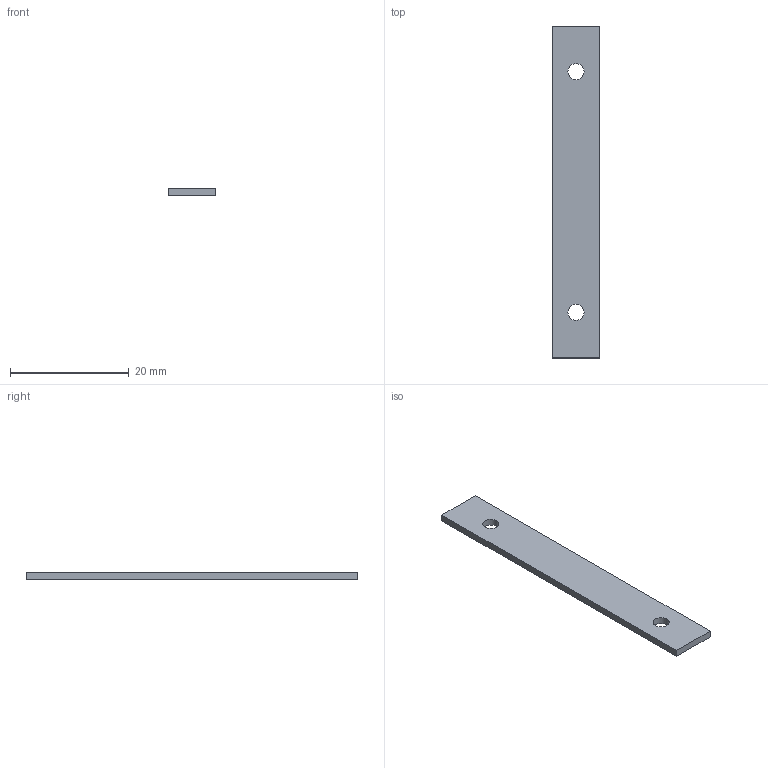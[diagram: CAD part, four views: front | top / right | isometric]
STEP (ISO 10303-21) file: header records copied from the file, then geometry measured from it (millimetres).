
FILE_DESCRIPTION(('Open CASCADE Model'),'2;1');
FILE_NAME('Open CASCADE Shape Model','2026-10-06T09:51:01',('Author'),( 'Open CASCADE'),'Open CASCADE STEP processor 7.9','Open CASCADE 7.9' ,'Unknown');
FILE_SCHEMA(('AUTOMOTIVE_DESIGN { 1 0 10303 214 1 1 1 1 }'));
Length unit declared in the file: millimetre
Products named in the file (1): Open CASCADE STEP translator 7.9 2
Bounding box: 8 x 56 x 1.2 mm (x, y, z)
Volume: 523.9 mm3; surface area: 1047.1 mm2
Topology: 1 solids, 1 shells, 8 faces, 18 edges, 12 vertices
Faces by surface type: plane 6, cylinder 2
Full cylindrical faces by diameter (mm): 2.7 x2
Entity records: 478 total; most frequent: DIRECTION 76, CARTESIAN_POINT 75, LINE 46, VECTOR 46, ORIENTED_EDGE 36, PCURVE 36, DEFINITIONAL_REPRESENTATION 36, EDGE_CURVE 18
